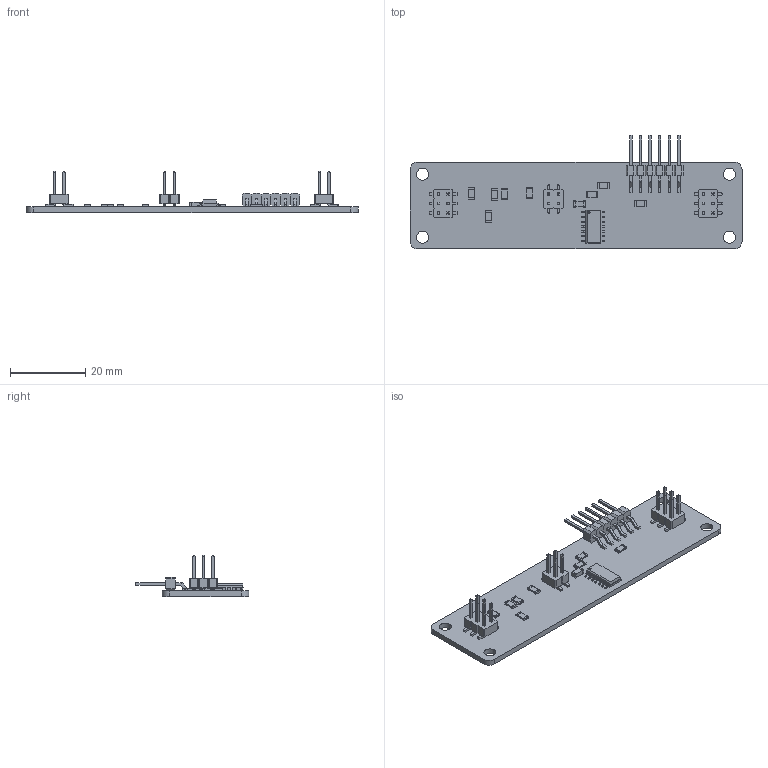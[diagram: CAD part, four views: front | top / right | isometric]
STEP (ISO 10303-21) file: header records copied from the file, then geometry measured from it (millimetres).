
FILE_DESCRIPTION(('KiCad electronic assembly'),'2;1');
FILE_NAME('Servo_Legs.step','2025-06-01T21:49:14',('Pcbnew'),('Kicad'), 'Open CASCADE STEP processor 7.8','KiCad to STEP converter','Unknown' );
FILE_SCHEMA(('AUTOMOTIVE_DESIGN { 1 0 10303 214 1 1 1 1 }'));
Length unit declared in the file: millimetre
Products named in the file (21): Servo_Legs 1; Resistor-1206; Ceramic; Contacts; Contacts (Mirror #1); Overcoat; PinHeader_2x03_P2.54mm_Vertical_SMD; PinHeader_2x02_P2.54mm_Vertical_SMD; SOIC-14_3.9x8.7mm_P1.27mm; Leads; Leads_Right; Package; Dot; Header_SMD_01x06_P2.54mm_Horizontal_Male; Servo_Legs 1.9.1; Servo_Legs 1.9.2; Capacitor-1206; Body; Contact; ContactClone; Servo_Legs_PCB
Assembly tree (34 placements, depth 4):
  Servo_Legs 1
    Resistor-1206  x8
      Ceramic
      Contacts
      Contacts (Mirror #1)
      Overcoat
    PinHeader_2x03_P2.54mm_Vertical_SMD  x2
    PinHeader_2x02_P2.54mm_Vertical_SMD
    SOIC-14_3.9x8.7mm_P1.27mm
      Leads
        Leads_Right  x7
      Package
      Dot
    Header_SMD_01x06_P2.54mm_Horizontal_Male
      Servo_Legs 1.9.1
      Servo_Legs 1.9.2
    Capacitor-1206
      Body
      Contact
      ContactClone
    Servo_Legs_PCB
Bounding box: 88 x 30.13 x 10.89 mm (x, y, z)
Volume: 3570.6 mm3; surface area: 6046 mm2
Topology: 60 solids, 60 shells, 1138 faces, 2647 edges, 1662 vertices
Faces by surface type: plane 1044, cylinder 82, revolution 12
Full cylindrical faces by diameter (mm): 0.4 x2, 3.2 x4
Entity records: 18800 total; most frequent: CARTESIAN_POINT 2880, ORIENTED_EDGE 2762, DIRECTION 2751, EDGE_CURVE 1381, LINE 1313, VECTOR 1313, VERTEX_POINT 842, AXIS2_PLACEMENT_3D 713
